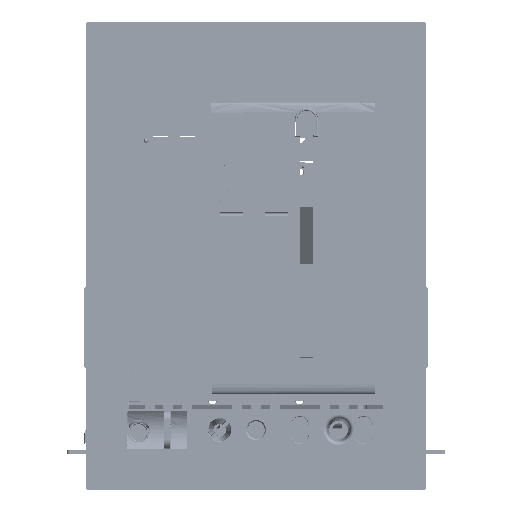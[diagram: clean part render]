
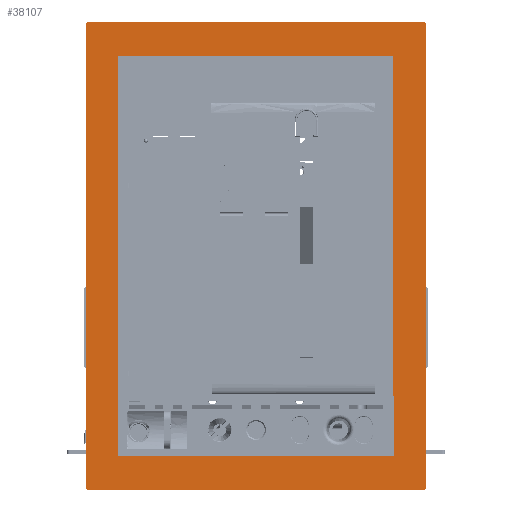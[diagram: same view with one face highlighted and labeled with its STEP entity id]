
A CAD part, top view. The second image highlights one B-rep face of the part: STEP entity #38107.
In plain terms, the highlighted planar face has unit normal (0, 0, 1).
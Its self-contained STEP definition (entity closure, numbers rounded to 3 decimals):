
#3281 = ORIENTED_EDGE ( 'NONE', *, *, #133328, .F. ) ;
#4039 = DIRECTION ( 'NONE',  ( 0., 0., 1. ) ) ;
#4583 = EDGE_CURVE ( 'NONE', #228937, #249399, #278163, .T. ) ;
#7837 = EDGE_CURVE ( 'NONE', #68920, #41232, #178761, .T. ) ;
#16031 = VECTOR ( 'NONE', #246532, 1000. ) ;
#17180 = CARTESIAN_POINT ( 'NONE',  ( 13.582, -342.581, 129.384 ) ) ;
#17797 = DIRECTION ( 'NONE',  ( 1., 0., 0. ) ) ;
#23443 = ORIENTED_EDGE ( 'NONE', *, *, #94537, .F. ) ;
#24286 = ORIENTED_EDGE ( 'NONE', *, *, #252487, .T. ) ;
#27543 = DIRECTION ( 'NONE',  ( 0., 1., 0. ) ) ;
#31265 = ORIENTED_EDGE ( 'NONE', *, *, #197592, .F. ) ;
#33611 = ORIENTED_EDGE ( 'NONE', *, *, #156058, .F. ) ;
#38107 = ADVANCED_FACE ( 'NONE', ( #227505, #68749 ), #278546, .T. ) ;
#40274 = EDGE_CURVE ( 'NONE', #61489, #233788, #268358, .T. ) ;
#41232 = VERTEX_POINT ( 'NONE', #182691 ) ;
#47161 = DIRECTION ( 'NONE',  ( 0., -1., 0. ) ) ;
#47845 = CARTESIAN_POINT ( 'NONE',  ( -12.56, 2.408, 129.384 ) ) ;
#52452 = VECTOR ( 'NONE', #156599, 1000. ) ;
#54640 = DIRECTION ( 'NONE',  ( 0., -1., 0. ) ) ;
#56618 = AXIS2_PLACEMENT_3D ( 'NONE', #94285, #65019, #154694 ) ;
#60442 = DIRECTION ( 'NONE',  ( 0., 0., 1. ) ) ;
#61489 = VERTEX_POINT ( 'NONE', #139322 ) ;
#65019 = DIRECTION ( 'NONE',  ( 0., 0., 1. ) ) ;
#66931 = EDGE_CURVE ( 'NONE', #95247, #255068, #195315, .T. ) ;
#66939 = CARTESIAN_POINT ( 'NONE',  ( 233.45, -22.49, 129.384 ) ) ;
#68749 = FACE_OUTER_BOUND ( 'NONE', #236063, .T. ) ;
#68920 = VERTEX_POINT ( 'NONE', #210594 ) ;
#70318 = ORIENTED_EDGE ( 'NONE', *, *, #66931, .F. ) ;
#73408 = CARTESIAN_POINT ( 'NONE',  ( 259.44, 2.52, 129.384 ) ) ;
#74671 = VECTOR ( 'NONE', #54640, 1000. ) ;
#89754 = CIRCLE ( 'NONE', #193019, 2. ) ;
#89846 = CARTESIAN_POINT ( 'NONE',  ( 13.45, -22.581, 129.384 ) ) ;
#94285 = CARTESIAN_POINT ( 'NONE',  ( -10.408, -367.591, 129.384 ) ) ;
#94537 = EDGE_CURVE ( 'NONE', #68920, #222314, #114189, .T. ) ;
#95247 = VERTEX_POINT ( 'NONE', #171025 ) ;
#96088 = VECTOR ( 'NONE', #207493, 1000. ) ;
#99867 = CARTESIAN_POINT ( 'NONE',  ( -10.561, 4.409, 129.384 ) ) ;
#100409 = VECTOR ( 'NONE', #253917, 1000. ) ;
#101645 = CARTESIAN_POINT ( 'NONE',  ( 259.44, 2.52, 129.384 ) ) ;
#103116 = CARTESIAN_POINT ( 'NONE',  ( 257.44, 2.519, 129.384 ) ) ;
#104547 = CARTESIAN_POINT ( 'NONE',  ( 233.582, -342.49, 129.384 ) ) ;
#114189 = LINE ( 'NONE', #180363, #16031 ) ;
#114697 = EDGE_CURVE ( 'NONE', #233211, #249399, #89754, .T. ) ;
#115718 = CARTESIAN_POINT ( 'NONE',  ( 123.516, -182.536, 129.384 ) ) ;
#119688 = CARTESIAN_POINT ( 'NONE',  ( 257.593, -369.481, 129.384 ) ) ;
#120929 = VERTEX_POINT ( 'NONE', #104547 ) ;
#126650 = ORIENTED_EDGE ( 'NONE', *, *, #195356, .F. ) ;
#127994 = CARTESIAN_POINT ( 'NONE',  ( 13.582, -342.581, 129.384 ) ) ;
#133328 = EDGE_CURVE ( 'NONE', #233788, #208638, #227973, .T. ) ;
#134849 = CARTESIAN_POINT ( 'NONE',  ( 13.45, -22.581, 129.384 ) ) ;
#138112 = ORIENTED_EDGE ( 'NONE', *, *, #7837, .T. ) ;
#139322 = CARTESIAN_POINT ( 'NONE',  ( 233.45, -22.49, 129.384 ) ) ;
#139566 = CIRCLE ( 'NONE', #177192, 2. ) ;
#141289 = LINE ( 'NONE', #228080, #96088 ) ;
#143260 = DIRECTION ( 'NONE',  ( -1., 0., 0. ) ) ;
#154694 = DIRECTION ( 'NONE',  ( -1., 0., 0. ) ) ;
#156058 = EDGE_CURVE ( 'NONE', #120929, #61489, #268740, .T. ) ;
#156599 = DIRECTION ( 'NONE',  ( -1., 0., 0. ) ) ;
#166667 = EDGE_CURVE ( 'NONE', #228937, #255068, #139566, .T. ) ;
#171025 = CARTESIAN_POINT ( 'NONE',  ( -10.561, 4.409, 129.384 ) ) ;
#171825 = DIRECTION ( 'NONE',  ( 1., 0., 0. ) ) ;
#173724 = VECTOR ( 'NONE', #171825, 1000. ) ;
#174635 = AXIS2_PLACEMENT_3D ( 'NONE', #115718, #248095, #143260 ) ;
#177192 = AXIS2_PLACEMENT_3D ( 'NONE', #103116, #263335, #17797 ) ;
#177921 = DIRECTION ( 'NONE',  ( 1., 0., 0. ) ) ;
#178761 = CIRCLE ( 'NONE', #56618, 2. ) ;
#178901 = CARTESIAN_POINT ( 'NONE',  ( 259.592, -367.48, 129.384 ) ) ;
#180363 = CARTESIAN_POINT ( 'NONE',  ( -12.408, -367.592, 129.384 ) ) ;
#181625 = CIRCLE ( 'NONE', #251948, 2. ) ;
#182691 = CARTESIAN_POINT ( 'NONE',  ( -10.407, -369.591, 129.384 ) ) ;
#193019 = AXIS2_PLACEMENT_3D ( 'NONE', #260453, #60442, #195674 ) ;
#195315 = LINE ( 'NONE', #99867, #173724 ) ;
#195356 = EDGE_CURVE ( 'NONE', #208638, #120929, #242624, .T. ) ;
#195674 = DIRECTION ( 'NONE',  ( 0., -1., 0. ) ) ;
#197592 = EDGE_CURVE ( 'NONE', #233211, #41232, #141289, .T. ) ;
#205419 = CARTESIAN_POINT ( 'NONE',  ( -10.56, 2.409, 129.384 ) ) ;
#207493 = DIRECTION ( 'NONE',  ( -1., 0., 0. ) ) ;
#208638 = VERTEX_POINT ( 'NONE', #17180 ) ;
#210594 = CARTESIAN_POINT ( 'NONE',  ( -12.408, -367.592, 129.384 ) ) ;
#222314 = VERTEX_POINT ( 'NONE', #47845 ) ;
#225490 = ORIENTED_EDGE ( 'NONE', *, *, #4583, .F. ) ;
#227505 = FACE_BOUND ( 'NONE', #237051, .T. ) ;
#227973 = LINE ( 'NONE', #89846, #251313 ) ;
#228080 = CARTESIAN_POINT ( 'NONE',  ( 257.593, -369.481, 129.384 ) ) ;
#228937 = VERTEX_POINT ( 'NONE', #73408 ) ;
#231112 = CARTESIAN_POINT ( 'NONE',  ( 257.439, 4.519, 129.384 ) ) ;
#231870 = CARTESIAN_POINT ( 'NONE',  ( 233.582, -342.49, 129.384 ) ) ;
#233211 = VERTEX_POINT ( 'NONE', #119688 ) ;
#233788 = VERTEX_POINT ( 'NONE', #134849 ) ;
#236063 = EDGE_LOOP ( 'NONE', ( #23443, #138112, #31265, #269427, #225490, #258423, #70318, #24286 ) ) ;
#237051 = EDGE_LOOP ( 'NONE', ( #287084, #33611, #126650, #3281 ) ) ;
#242624 = LINE ( 'NONE', #127994, #260052 ) ;
#246532 = DIRECTION ( 'NONE',  ( 0., 1., 0. ) ) ;
#248095 = DIRECTION ( 'NONE',  ( 0., 0., 1. ) ) ;
#249399 = VERTEX_POINT ( 'NONE', #178901 ) ;
#251313 = VECTOR ( 'NONE', #47161, 1000. ) ;
#251948 = AXIS2_PLACEMENT_3D ( 'NONE', #205419, #4039, #27543 ) ;
#252487 = EDGE_CURVE ( 'NONE', #95247, #222314, #181625, .T. ) ;
#253917 = DIRECTION ( 'NONE',  ( 0., 1., 0. ) ) ;
#255068 = VERTEX_POINT ( 'NONE', #231112 ) ;
#258423 = ORIENTED_EDGE ( 'NONE', *, *, #166667, .T. ) ;
#260052 = VECTOR ( 'NONE', #177921, 1000. ) ;
#260453 = CARTESIAN_POINT ( 'NONE',  ( 257.592, -367.481, 129.384 ) ) ;
#263335 = DIRECTION ( 'NONE',  ( 0., 0., 1. ) ) ;
#268358 = LINE ( 'NONE', #66939, #52452 ) ;
#268740 = LINE ( 'NONE', #231870, #100409 ) ;
#269427 = ORIENTED_EDGE ( 'NONE', *, *, #114697, .T. ) ;
#278163 = LINE ( 'NONE', #101645, #74671 ) ;
#278546 = PLANE ( 'NONE',  #174635 ) ;
#287084 = ORIENTED_EDGE ( 'NONE', *, *, #40274, .F. ) ;
